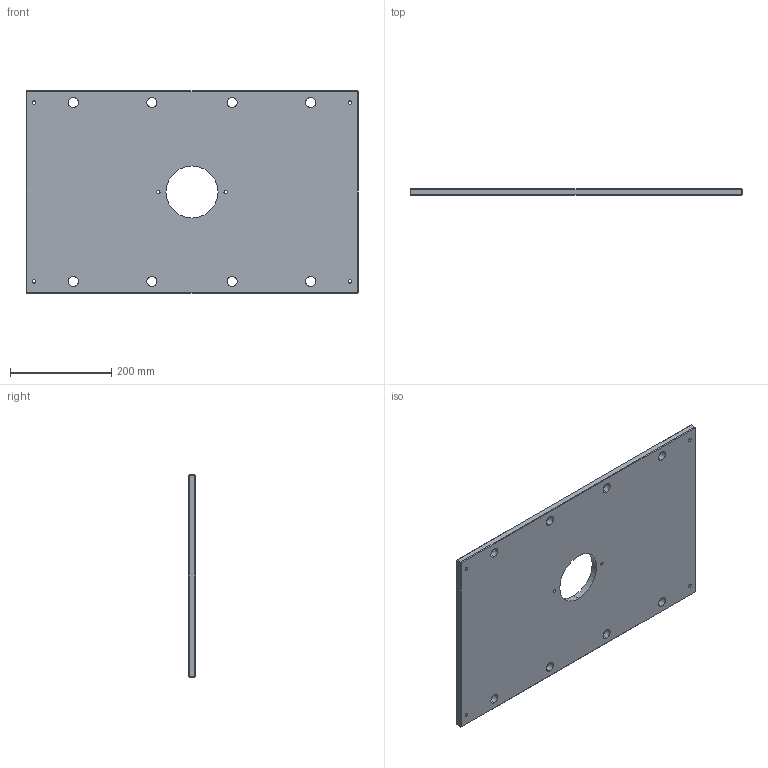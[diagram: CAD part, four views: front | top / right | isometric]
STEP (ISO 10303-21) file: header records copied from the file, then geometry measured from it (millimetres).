
FILE_DESCRIPTION (( 'STEP AP214' ), '1' );
FILE_NAME ('ME-0619-CH-1626.STEP', '2020-02-12T15:57:41', ( '' ), ( '' ), 'SwSTEP 2.0', 'SolidWorks 2018', '' );
FILE_SCHEMA (( 'AUTOMOTIVE_DESIGN' ));
Length unit declared in the file: inch
Products named in the file (1): ME-0619-CH-1626
Bounding box: 657.23 x 12.7 x 400.05 mm (x, y, z)
Volume: 3194031.8 mm3; surface area: 539334 mm2
Topology: 1 solids, 1 shells, 68 faces, 162 edges, 96 vertices
Faces by surface type: cylinder 30, plane 26, cone 12
Entity records: 2050 total; most frequent: DIRECTION 372, CARTESIAN_POINT 327, ORIENTED_EDGE 324, EDGE_CURVE 162, AXIS2_PLACEMENT_3D 141, EDGE_LOOP 98, VERTEX_POINT 96, LINE 90
